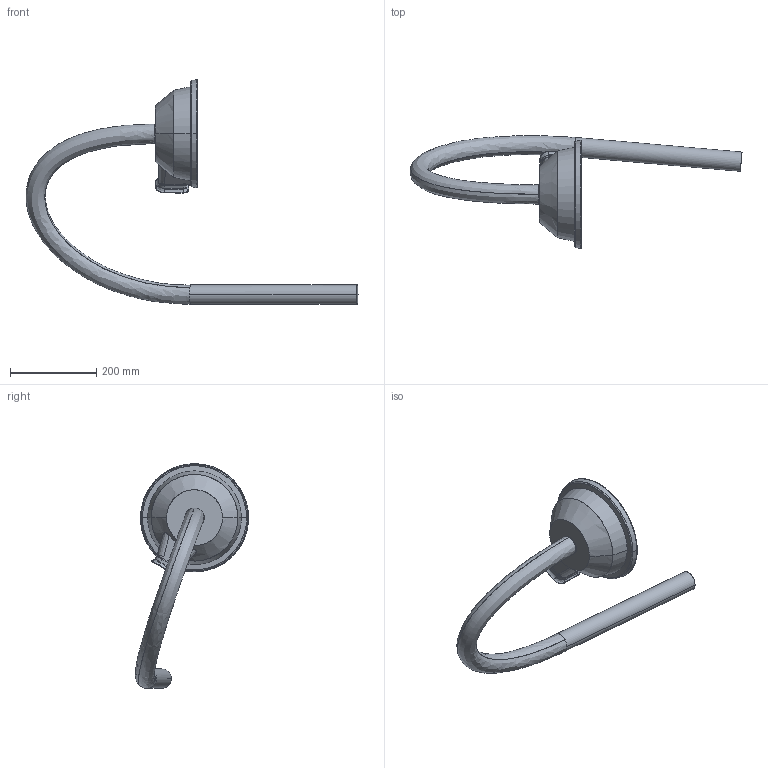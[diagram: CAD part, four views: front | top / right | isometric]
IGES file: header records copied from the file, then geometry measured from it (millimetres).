
Start section: SolidWorks IGES file using analytic representation for surfaces
Global section: file name: N:\DM\Robotics\SEROP_PROJ\Product Development\DevelopmentProjects\Manipulator_Modularity\04. Product Design\06. CAD\Amanda\6730S Simulation models\\IRB6730S-MH3_150kg-400_OC_01_IGES_J\IRB6730S-ALL-OC_00_LINK03b_CABLE.igs; native system: SolidWorks 2024; preprocessor: SolidWorks 2024; author: SEJOHLUN; date: 251219.144955; units: millimetre
Bounding box: 771.12 x 262.95 x 521.86 mm (x, y, z)
Surface area: 322439.4 mm2 (no closed solid volume)
Topology: 0 solids, 0 shells, 108 faces, 1139 edges, 1139 vertices
Faces by surface type: bspline 66, revolution 42
